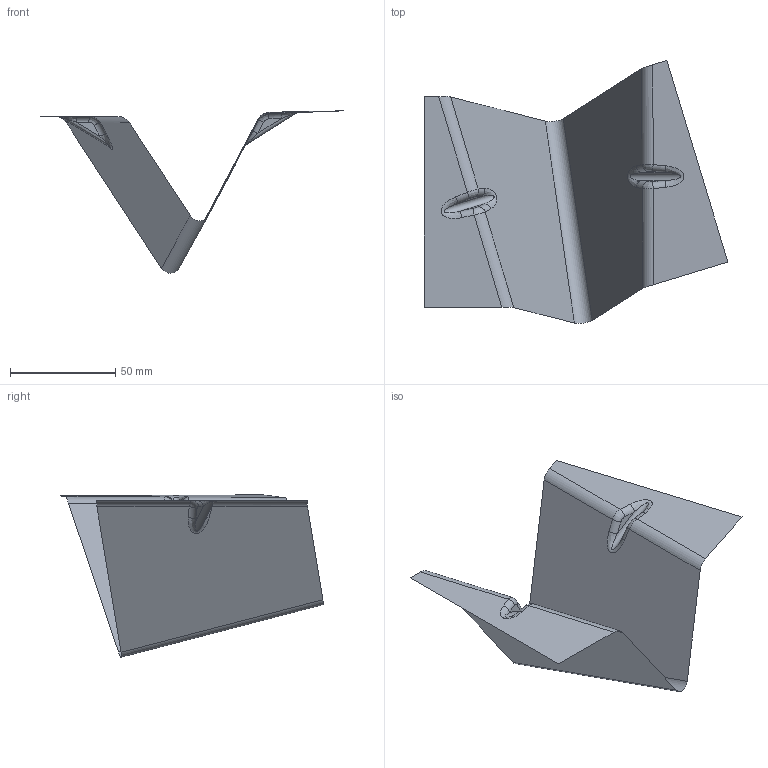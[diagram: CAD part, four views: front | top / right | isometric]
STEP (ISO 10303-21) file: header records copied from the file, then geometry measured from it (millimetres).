
FILE_DESCRIPTION(('CATIA V5 STEP Exchange'),'2;1');
FILE_NAME('C:\_Andres\UNIVERSIDAD\IQS\ASIGNATURAS\DAO\EXF\EXF-16172c\2inicio\Barrenechea_Bonifacio_Ej03_v2.stp','2017-03-05T19:32:01+00:00',('none'),('none'),'CATIA Version 5-6 Release 2014 SP1 HF18','CATIA V5 STEP AP203','none');
FILE_SCHEMA(('CONFIG_CONTROL_DESIGN'));
Length unit declared in the file: millimetre
Products named in the file (1): Barrenechea_Bonifacio_Ej03_v2
Bounding box: 144.28 x 124.72 x 77.05 mm (x, y, z)
Surface area: 20640.5 mm2 (no closed solid volume)
Topology: 0 solids, 1 shells, 31 faces, 78 edges, 48 vertices
Faces by surface type: cylinder 15, plane 8, bspline 8
Entity records: 2335 total; most frequent: CARTESIAN_POINT 1662, ORIENTED_EDGE 140, DIRECTION 90, EDGE_CURVE 78, VERTEX_POINT 48, VECTOR 40, LINE 40, ADVANCED_FACE 31
